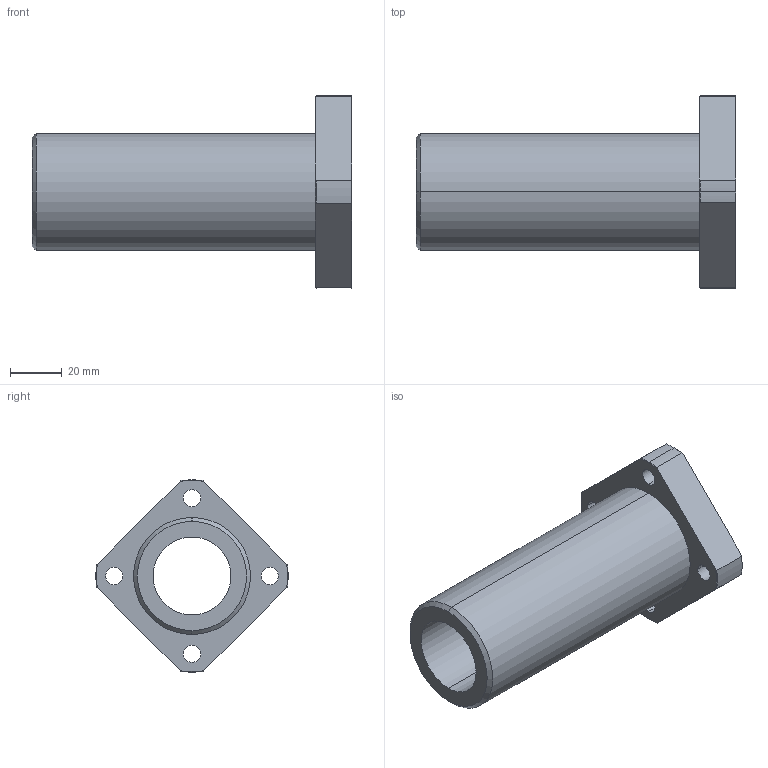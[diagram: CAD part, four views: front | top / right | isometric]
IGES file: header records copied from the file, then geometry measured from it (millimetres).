
Start section: 3D InterOp IGES (Version 21 0 1), Spatial Corp. Copyright (c) 1999-2007.
Global section: file name: DFPJ30.igs; native system: Spatial Corp.; preprocessor: 3D InterOp GENERIC/IGES 3.0; author: Noname; organization: Noname; date: 20220324.140412; units: millimetre
Bounding box: 123 x 73.95 x 74 mm (x, y, z)
Surface area: 36320.7 mm2 (no closed solid volume)
Topology: 0 solids, 0 shells, 48 faces, 240 edges, 240 vertices
Faces by surface type: revolution 37, extrusion 11
